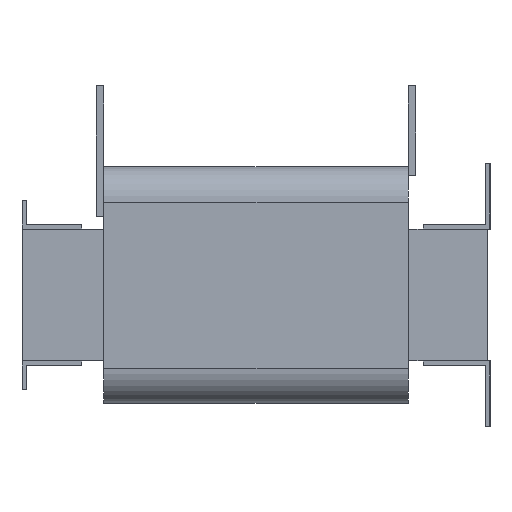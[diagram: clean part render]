
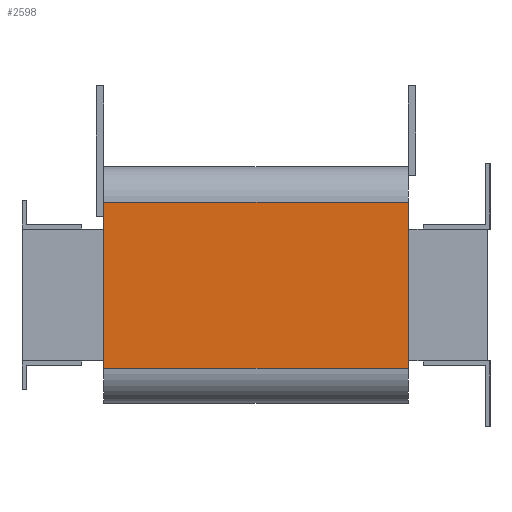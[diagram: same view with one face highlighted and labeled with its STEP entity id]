
A CAD part, left-side view. The second image highlights one B-rep face of the part: STEP entity #2598.
In plain terms, the highlighted planar face has unit normal (-1, 0, 0).
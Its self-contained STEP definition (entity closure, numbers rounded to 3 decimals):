
#102=PLANE('',#2804);
#231=FACE_OUTER_BOUND('',#381,.T.);
#381=EDGE_LOOP('',(#2166,#2167,#2168,#2169));
#630=LINE('',#4035,#948);
#649=LINE('',#4085,#967);
#650=LINE('',#4088,#968);
#651=LINE('',#4089,#969);
#948=VECTOR('',#3290,10.);
#967=VECTOR('',#3335,10.);
#968=VECTOR('',#3338,10.);
#969=VECTOR('',#3339,10.);
#1291=VERTEX_POINT('',#4032);
#1292=VERTEX_POINT('',#4034);
#1310=VERTEX_POINT('',#4083);
#1311=VERTEX_POINT('',#4087);
#1601=EDGE_CURVE('',#1291,#1292,#630,.T.);
#1627=EDGE_CURVE('',#1310,#1291,#649,.T.);
#1628=EDGE_CURVE('',#1310,#1311,#650,.T.);
#1629=EDGE_CURVE('',#1292,#1311,#651,.T.);
#2166=ORIENTED_EDGE('',*,*,#1627,.F.);
#2167=ORIENTED_EDGE('',*,*,#1628,.T.);
#2168=ORIENTED_EDGE('',*,*,#1629,.F.);
#2169=ORIENTED_EDGE('',*,*,#1601,.F.);
#2598=ADVANCED_FACE('',(#231),#102,.T.);
#2804=AXIS2_PLACEMENT_3D('',#4086,#3336,#3337);
#3290=DIRECTION('',(0.,0.,1.));
#3335=DIRECTION('',(0.,1.,0.));
#3336=DIRECTION('center_axis',(-1.,0.,0.));
#3337=DIRECTION('ref_axis',(0.,0.,1.));
#3338=DIRECTION('',(0.,0.,1.));
#3339=DIRECTION('',(0.,-1.,0.));
#4032=CARTESIAN_POINT('',(-180.,272.5,-51.5));
#4034=CARTESIAN_POINT('',(-180.,272.5,65.5));
#4035=CARTESIAN_POINT('',(-180.,272.5,-76.5));
#4083=CARTESIAN_POINT('',(-180.,57.5,-51.5));
#4085=CARTESIAN_POINT('',(-180.,57.5,-51.5));
#4086=CARTESIAN_POINT('Origin',(-180.,57.5,-76.5));
#4087=CARTESIAN_POINT('',(-180.,57.5,65.5));
#4088=CARTESIAN_POINT('',(-180.,57.5,-76.5));
#4089=CARTESIAN_POINT('',(-180.,57.5,65.5));
